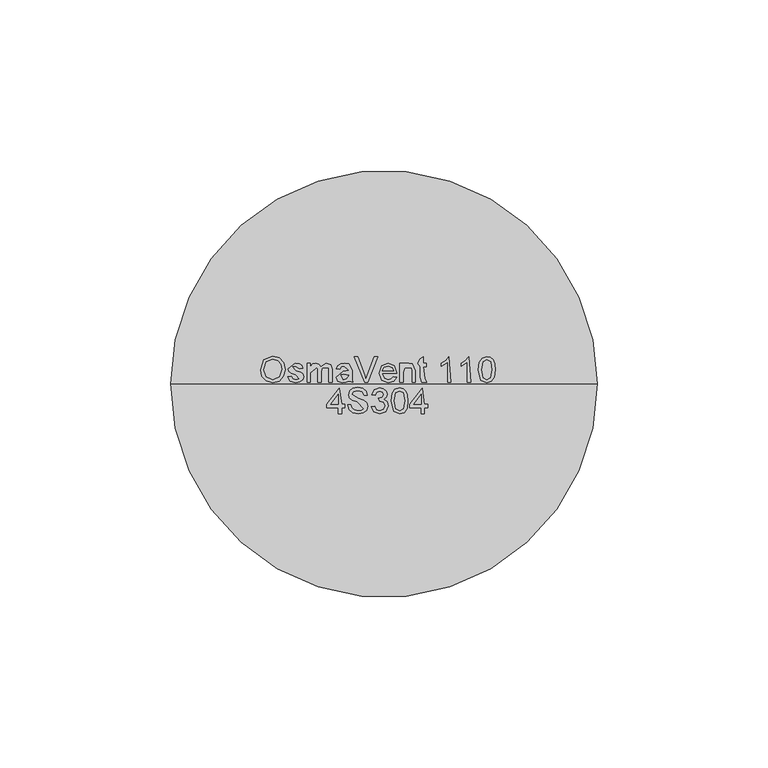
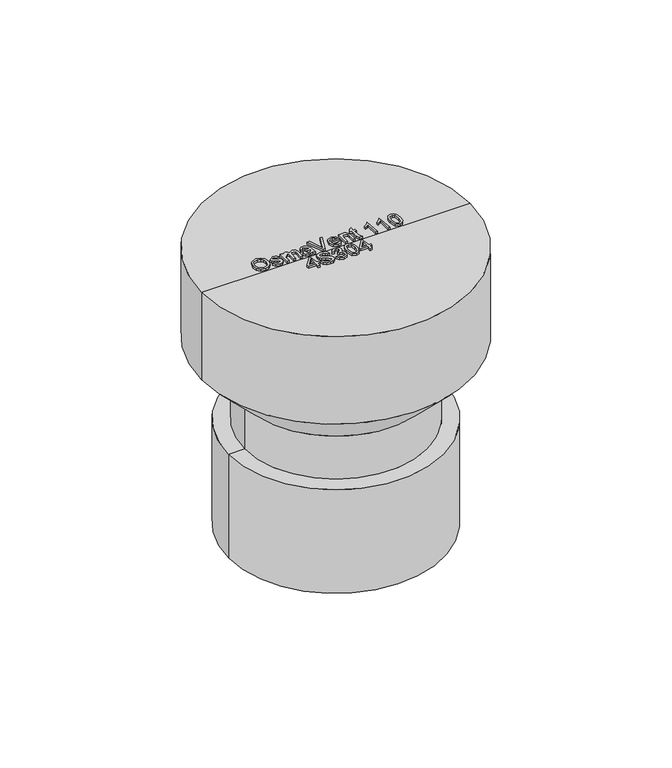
"""IFC4 building model written with IfcOpenShell, lengths in millimetres: pipe fitting geometry, Wavin_PipeAccessory_OsmaAccessoriesAbsAav : Air admitance valve 82/110."""

from ifc_helpers import new_model, si_unit, frame, origin, place, context, project, spatial, polyline, circle_curve, outline, extrude, source, transform, mapped, element, save
from ifc_brep_helpers import plane_surface, cylinder_surface, revolved_surface, advanced_brep


def pipe_fitting_55bd5c23(model_context):
    return source(origin(), model_context, "Body", "SolidModel", [
        extrude(outline(polyline([(-36.1646069, 4.1492234), (-35.1602891, 7.0757246), (-32.5685604, 8.1333854), (-30.6942017, 7.6367447), (-29.42133, 6.251669), (-28.9835504, 4.2356756), (-29.4443226, 2.1920912), (-30.7503037, 0.827249), (-32.5740786, 0.3637176), (-34.4686709, 0.8759933), (-35.734185, 2.2739449), (-36.1646069, 4.1492234)]), holes=[polyline([(-35.222829, 4.1400263), (-34.4695906, 2.0633325), (-32.5795969, 1.3054955), (-30.6730484, 2.0706901), (-29.9253283, 4.2430333), (-30.2453856, 5.7973347), (-31.1807256, 6.8264846), (-32.5630422, 7.1916075), (-34.437401, 6.4880332), (-35.222829, 4.1400263)])]), frame((0.0, 0.0, 84.0), z_axis=(0.0, 0.0, 1.0), x_axis=(1.0, 0.0, 0.0)), (0.0, 0.0, 1.0), 1.0),
        extrude(outline(polyline([(-28.1594947, 2.1295512), (-27.2177168, 2.2472735), (-26.7817766, 1.5482977), (-25.782977, 1.3054955), (-24.822805, 1.5280642), (-25.7940135, 2.7420747), (-27.2121986, 3.2028469), (-27.83116, 3.7408744), (-28.0417725, 4.5005507), (-26.0018668, 6.1321073), (-24.8559144, 5.9472466), (-24.127508, 5.4469271), (-23.8037719, 4.6017182), (-24.7455498, 4.483996), (-25.9282904, 5.1903294), (-26.8296013, 5.0119066), (-25.8252834, 3.9137789), (-24.4429669, 3.4704811), (-23.8010128, 2.9683222), (-23.5683274, 2.1497847), (-23.8414798, 1.2484738), (-24.629667, 0.5945636), (-25.7958529, 0.3637176), (-27.438446, 0.8088549), (-28.1594947, 2.1295512)])), frame((0.0, 0.0, 84.0), z_axis=(0.0, 0.0, 1.0), x_axis=(1.0, 0.0, 0.0)), (0.0, 0.0, 1.0), 1.0),
        extrude(outline(polyline([(-22.5088273, 0.4814399), (-22.5088273, 6.0143851), (-21.5670494, 6.0143851), (-21.5670494, 5.1038771), (-20.919577, 5.8497579), (-19.9980326, 6.1321073), (-19.0544153, 5.8442397), (-18.5357017, 5.0376584), (-16.8728751, 6.1321073), (-15.6413901, 5.6768534), (-15.2100485, 4.2743032), (-15.2100485, 0.4814399), (-16.1518264, 0.4814399), (-16.1518264, 3.8696331), (-16.2391984, 4.6559808), (-18.0197472, 4.8132504), (-18.3885489, 3.604758), (-18.3885489, 0.4814399), (-19.3303268, 0.4814399), (-19.3303268, 3.9744794), (-19.5482969, 4.8868268), (-21.5670494, 3.2718248), (-21.5670494, 0.4814399), (-22.5088273, 0.4814399)])), frame((0.0, 0.0, 84.0), z_axis=(0.0, 0.0, 1.0), x_axis=(1.0, 0.0, 0.0)), (0.0, 0.0, 1.0), 1.0),
        extrude(outline(polyline([(-10.1479922, 0.8346066), (-11.1789815, 0.549498), (-12.1878979, 0.3637176), (-13.5554992, 0.8106943), (-14.0328261, 1.9529679), (-11.9046288, 3.6893709), (-10.2712327, 4.013107), (-11.5661773, 5.1903294), (-12.5189917, 5.0091475), (-12.9733259, 4.3662737), (-13.9151039, 4.483996), (-13.5076745, 5.403701), (-12.6872977, 5.9426481), (-11.4447763, 6.1321073), (-10.3034224, 5.964721), (-9.3239366, 4.0811652), (-9.3239366, 2.909461), (-9.2761119, 1.2733059), (-9.0884921, 0.4814399), (-10.1479922, 0.8346066)]), holes=[polyline([(-10.3429697, 2.5737687), (-11.7850671, 2.7825418), (-12.5953272, 2.6298707), (-11.9874022, 1.3054955), (-11.0345878, 1.5308233), (-10.3429697, 2.5737687)])]), frame((0.0, 0.0, 84.0), z_axis=(0.0, 0.0, 1.0), x_axis=(1.0, 0.0, 0.0)), (0.0, 0.0, 1.0), 1.0),
        extrude(outline(polyline([(-5.6855836, 0.4814399), (-8.6838219, 8.0156631), (-7.6758252, 8.0156631), (-5.6690289, 2.5875643), (-5.2625193, 1.3643567), (-4.861528, 2.5875643), (-2.8492134, 8.0156631), (-1.8412168, 8.0156631), (-4.7125357, 0.4814399), (-5.6855836, 0.4814399)])), frame((0.0, 0.0, 84.0), z_axis=(0.0, 0.0, 1.0), x_axis=(1.0, 0.0, 0.0)), (0.0, 0.0, 1.0), 1.0),
        extrude(outline(polyline([(2.7904175, 2.1295512), (3.7138014, 2.011829), (2.8501984, 0.795979), (1.2416343, 0.3637176), (-0.7136585, 1.1095984), (-1.4365466, 3.2019272), (-0.7063008, 5.363234), (1.1882915, 6.1321073), (3.0286211, 5.3650734), (3.7432319, 3.2074455), (-0.4947687, 2.9536069), (0.0469376, 1.7303992), (1.2600284, 1.3054955), (2.1834123, 1.5023124), (2.7904175, 2.1295512)]), holes=[polyline([(-0.4947687, 3.8953848), (2.801454, 3.8953848), (2.424375, 4.748871), (1.1846126, 5.1903294), (0.0248646, 4.8380824), (-0.4947687, 3.8953848)])]), frame((0.0, 0.0, 84.0), z_axis=(0.0, 0.0, 1.0), x_axis=(1.0, 0.0, 0.0)), (0.0, 0.0, 1.0), 1.0),
        extrude(outline(polyline([(4.6850098, 0.4814399), (4.6850098, 6.0143851), (5.6267877, 6.0143851), (7.3300814, 6.1321073), (8.2194361, 5.9527648), (9.1584549, 3.8788301), (9.1584549, 0.4814399), (8.216677, 0.4814399), (8.216677, 3.7519108), (8.1081518, 4.5851635), (6.05629, 4.820608), (5.6267877, 3.4171382), (5.6267877, 0.4814399), (4.6850098, 0.4814399)])), frame((0.0, 0.0, 84.0), z_axis=(0.0, 0.0, 1.0), x_axis=(1.0, 0.0, 0.0)), (0.0, 0.0, 1.0), 1.0),
        extrude(outline(polyline([(11.9837886, 1.6467061), (12.5723998, 0.4538487), (11.0787989, 0.5200675), (10.5711217, 1.9989531), (10.5711217, 5.0726072), (9.8647883, 6.0143851), (10.5711217, 7.3589938), (11.5128997, 7.9126562), (11.5128997, 6.0143851), (12.4546776, 6.0143851), (12.4546776, 5.0726072), (11.5128997, 5.0726072), (11.9837886, 1.6467061)])), frame((0.0, 0.0, 84.0), z_axis=(0.0, 0.0, 1.0), x_axis=(1.0, 0.0, 0.0)), (0.0, 0.0, 1.0), 1.0),
        extrude(outline(polyline([(19.6357341, 0.4814399), (18.6939562, 0.4814399), (18.6939562, 6.3528365), (17.8018424, 5.7173204), (16.8104004, 5.2418329), (16.8104004, 6.1321073), (18.1908776, 7.0131847), (19.0287288, 8.0156631), (19.6357341, 0.4814399)])), frame((0.0, 0.0, 84.0), z_axis=(0.0, 0.0, 1.0), x_axis=(1.0, 0.0, 0.0)), (0.0, 0.0, 1.0), 1.0),
        extrude(outline(polyline([(25.4041238, 0.4814399), (24.4623459, 0.4814399), (24.4623459, 6.3528365), (23.570232, 5.7173204), (22.5787901, 5.2418329), (22.5787901, 6.1321073), (23.9592673, 7.0131847), (24.7971185, 8.0156631), (25.4041238, 0.4814399)])), frame((0.0, 0.0, 84.0), z_axis=(0.0, 0.0, 1.0), x_axis=(1.0, 0.0, 0.0)), (0.0, 0.0, 1.0), 1.0),
        extrude(outline(polyline([(27.6408463, 4.187851), (27.9176775, 6.3555956), (28.7398938, 7.6054747), (30.1130133, 8.0156631), (31.2129805, 7.772861), (31.9726568, 7.0729655), (32.4141152, 5.9582831), (32.5851803, 4.187851), (32.3111083, 2.0293034), (31.4916511, 0.7766652), (30.1130133, 0.3637176), (28.3913256, 1.0810875), (27.6408463, 4.187851)]), holes=[polyline([(28.5826242, 4.1896904), (29.0240826, 1.8508806), (30.1130133, 1.3054955), (31.201944, 1.85272), (31.6434024, 4.1896904), (31.2166593, 6.5018287), (30.1019769, 7.0738852), (29.0387979, 6.5698869), (28.5826242, 4.1896904)])]), frame((0.0, 0.0, 84.0), z_axis=(0.0, 0.0, 1.0), x_axis=(1.0, 0.0, 0.0)), (0.0, 0.0, 1.0), 1.0),
        extrude(outline(polyline([(-13.3264927, -8.6666715), (-13.3264927, -6.9008379), (-16.7404376, -6.9008379), (-16.7404376, -5.95906), (-13.0910482, -1.2501704), (-12.3847148, -5.95906), (-11.4429368, -5.95906), (-11.4429368, -6.9008379), (-12.3847148, -6.9008379), (-12.3847148, -8.6666715), (-13.3264927, -8.6666715)]), holes=[polyline([(-13.3264927, -5.95906), (-13.3264927, -3.0491134), (-15.5816093, -5.95906), (-13.3264927, -5.95906)])]), frame((0.0, 0.0, 84.0), z_axis=(0.0, 0.0, 1.0), x_axis=(1.0, 0.0, 0.0)), (0.0, 0.0, 1.0), 1.0),
        extrude(outline(polyline([(-10.6188812, -6.0767822), (-9.6771033, -6.0767822), (-9.3736006, -7.0194798), (-8.6323184, -7.6154487), (-7.5029207, -7.8426158), (-6.5188363, -7.670631), (-5.8833202, -7.1979026), (-7.8422918, -5.1911063), (-9.3184183, -4.7266553), (-10.1194814, -4.0258401), (-10.3834367, -3.0895804), (-10.0569414, -2.0236423), (-9.1032074, -1.2713237), (-7.7070952, -1.014726), (-6.2171731, -1.2832798), (-5.2238917, -2.0723867), (-4.8504915, -3.2514485), (-5.7922694, -3.2514485), (-6.3256983, -2.2839188), (-7.670307, -1.9565039), (-9.0185945, -2.28024), (-9.4416588, -3.0619893), (-7.6040882, -4.2410511), (-5.9375828, -4.7137794), (-5.0261551, -5.4771346), (-4.7327693, -6.5421529), (-5.070301, -7.6687916), (-6.0415095, -8.4910078), (-7.4661325, -8.7843937), (-9.1482729, -8.4680152), (-10.2123716, -7.5152008), (-10.6188812, -6.0767822)])), frame((0.0, 0.0, 84.0), z_axis=(0.0, 0.0, 1.0), x_axis=(1.0, 0.0, 0.0)), (0.0, 0.0, 1.0), 1.0),
        extrude(outline(polyline([(-3.6732691, -6.6653934), (-2.7314912, -6.5476712), (-2.2118579, -7.5391131), (-1.2397297, -7.8426158), (-0.0956167, -7.4250697), (0.329287, -6.3913213), (-0.0919379, -5.4173537), (-1.1624745, -5.0319974), (-1.7179763, -4.1932264), (-0.4984475, -3.9338696), (-0.0238797, -3.1024563), (-0.3678494, -2.3657726), (-1.254445, -2.0742261), (-2.1520771, -2.3685317), (-2.613769, -3.2514485), (-3.5555469, -3.1337263), (-2.7848341, -1.65668), (-1.2875544, -1.1324482), (-0.1517187, -1.3908853), (0.6429064, -2.0972187), (0.9178982, -3.047274), (0.656702, -3.9154755), (-0.1158502, -4.5390355), (0.9105406, -5.182829), (1.2710649, -6.407876), (0.5500162, -8.0927756), (-1.2728391, -8.7843937), (-2.9246292, -8.1939431), (-3.6732691, -6.6653934)])), frame((0.0, 0.0, 84.0), z_axis=(0.0, 0.0, 1.0), x_axis=(1.0, 0.0, 0.0)), (0.0, 0.0, 1.0), 1.0),
        extrude(outline(polyline([(2.0951206, -4.9602604), (2.3719518, -2.7925157), (3.194168, -1.5426366), (4.5672876, -1.1324482), (5.6672547, -1.3752503), (6.4269311, -2.0751458), (6.8683895, -3.1898283), (7.0394546, -4.9602604), (6.7653825, -7.118808), (5.9459254, -8.3714462), (4.5672876, -8.7843937), (2.8455998, -8.0670238), (2.0951206, -4.9602604)]), holes=[polyline([(3.0368985, -4.958421), (3.4783569, -7.2972307), (4.5672876, -7.8426158), (5.6562183, -7.2953913), (6.0976767, -4.958421), (5.6709336, -2.6462826), (4.5562511, -2.0742261), (3.4930722, -2.5782244), (3.0368985, -4.958421)])]), frame((0.0, 0.0, 84.0), z_axis=(0.0, 0.0, 1.0), x_axis=(1.0, 0.0, 0.0)), (0.0, 0.0, 1.0), 1.0),
        extrude(outline(polyline([(10.9242885, -8.6666715), (10.9242885, -6.9008379), (7.5103435, -6.9008379), (7.5103435, -5.95906), (11.1597329, -1.2501704), (11.8660664, -5.95906), (12.8078443, -5.95906), (12.8078443, -6.9008379), (11.8660664, -6.9008379), (11.8660664, -8.6666715), (10.9242885, -8.6666715)]), holes=[polyline([(10.9242885, -5.95906), (10.9242885, -3.0491134), (8.6691718, -5.95906), (10.9242885, -5.95906)])]), frame((0.0, 0.0, 84.0), z_axis=(0.0, 0.0, 1.0), x_axis=(1.0, 0.0, 0.0)), (0.0, 0.0, 1.0), 1.0),
        advanced_brep(
        [(50.0, 0.0, 0.0), (-50.0, 0.0, 0.0), (-42.6, 0.0, 0.0), (42.6, 0.0, 0.0), (50.0, 0.0, -51.0), (-50.0, 0.0, -51.0), (42.6, 0.0, -51.0), (-42.6, 0.0, -51.0)],
        [
            (0, 1, circle_curve(frame((0.0, 0.0, 0.0), z_axis=(0.0, 0.0, 1.0), x_axis=(-1.0, 0.0, 0.0)), 50.0)),
            (1, 2),
            (2, 3, circle_curve(frame((0.0, 0.0, 0.0), z_axis=(0.0, 0.0, -1.0), x_axis=(-1.0, 0.0, 0.0)), 42.6)),
            (3, 0),
            (1, 0, circle_curve(frame((0.0, 0.0, 0.0), z_axis=(0.0, 0.0, 1.0), x_axis=(-1.0, 0.0, 0.0)), 50.0)),
            (3, 2, circle_curve(frame((0.0, 0.0, 0.0), z_axis=(0.0, 0.0, -1.0), x_axis=(-1.0, 0.0, 0.0)), 42.6)),
            (4, 5, circle_curve(frame((0.0, 0.0, -51.0), z_axis=(0.0, 0.0, 1.0), x_axis=(-1.0, 0.0, 0.0)), 50.0)),
            (5, 1),
            (0, 4),
            (5, 4, circle_curve(frame((0.0, 0.0, -51.0), z_axis=(0.0, 0.0, 1.0), x_axis=(-1.0, 0.0, 0.0)), 50.0)),
            (6, 7, circle_curve(frame((0.0, 0.0, -51.0), z_axis=(0.0, 0.0, 1.0), x_axis=(-1.0, 0.0, 0.0)), 42.6)),
            (7, 5),
            (4, 6),
            (7, 6, circle_curve(frame((0.0, 0.0, -51.0), z_axis=(0.0, 0.0, 1.0), x_axis=(-1.0, 0.0, 0.0)), 42.6)),
            (2, 7),
            (6, 3),
        ],
        [
            plane_surface(frame((0.0, 0.0, 0.0), z_axis=(0.0, 0.0, 1.0), x_axis=(-1.0, 0.0, 0.0))),
            cylinder_surface(frame((0.0, 0.0, 2214.3150031), z_axis=(0.0, 0.0, -1.0), x_axis=(-1.0, 0.0, 0.0)), 50.0),
            plane_surface(frame((0.0, 0.0, -51.0), z_axis=(0.0, 0.0, -1.0), x_axis=(-1.0, 0.0, 0.0))),
            revolved_surface(polyline([(-42.6, 0.0, -51.0), (-42.6, 0.0, 0.0)]), (0.0, 0.0, 2214.3150031), (0.0, 0.0, -1.0)),
        ],
        [
            (0, [[1, 2, 3, 4]]),
            (0, [[5, -4, 6, -2]]),
            (1, [[7, 8, -1, 9]]),
            (1, [[10, -9, -5, -8]]),
            (2, [[11, 12, -7, 13]]),
            (2, [[14, -13, -10, -12]]),
            (3, [[-3, 15, -11, 16]]),
            (3, [[-6, -16, -14, -15]]),
        ],
    ),
        advanced_brep(
        [(0.0, 0.0, -51.0), (-42.6, 0.0, -51.0), (42.6, 0.0, -51.0), (62.5, 0.0, 84.0), (-62.5, 0.0, 84.0), (0.0, 0.0, 84.0), (62.5, 0.0, 41.0), (-62.5, 0.0, 41.0), (42.6, 0.0, 21.1), (-42.6, 0.0, 21.1), (42.6, 0.0, 0.0), (-42.6, 0.0, 0.0)],
        [
            (0, 1),
            (1, 2, circle_curve(frame((0.0, 0.0, -51.0), z_axis=(0.0, 0.0, -1.0), x_axis=(-1.0, 0.0, 0.0)), 42.6)),
            (2, 0),
            (2, 1, circle_curve(frame((0.0, 0.0, -51.0), z_axis=(0.0, 0.0, -1.0), x_axis=(-1.0, 0.0, 0.0)), 42.6)),
            (3, 4, circle_curve(frame((0.0, 0.0, 84.0), z_axis=(0.0, 0.0, 1.0), x_axis=(-1.0, 0.0, 0.0)), 62.5)),
            (4, 5),
            (5, 3),
            (4, 3, circle_curve(frame((0.0, 0.0, 84.0), z_axis=(0.0, 0.0, 1.0), x_axis=(-1.0, 0.0, 0.0)), 62.5)),
            (6, 7, circle_curve(frame((0.0, 0.0, 41.0), z_axis=(0.0, 0.0, 1.0), x_axis=(-1.0, 0.0, 0.0)), 62.5)),
            (7, 4),
            (3, 6),
            (7, 6, circle_curve(frame((0.0, 0.0, 41.0), z_axis=(0.0, 0.0, 1.0), x_axis=(-1.0, 0.0, 0.0)), 62.5)),
            (8, 9, circle_curve(frame((0.0, 0.0, 21.1), z_axis=(0.0, 0.0, 1.0), x_axis=(-1.0, 0.0, 0.0)), 42.6)),
            (9, 7),
            (6, 8),
            (9, 8, circle_curve(frame((0.0, 0.0, 21.1), z_axis=(0.0, 0.0, 1.0), x_axis=(-1.0, 0.0, 0.0)), 42.6)),
            (10, 11, circle_curve(frame((0.0, 0.0, 0.0), z_axis=(0.0, 0.0, 1.0), x_axis=(-1.0, 0.0, 0.0)), 42.6)),
            (11, 9),
            (8, 10),
            (11, 10, circle_curve(frame((0.0, 0.0, 0.0), z_axis=(0.0, 0.0, 1.0), x_axis=(-1.0, 0.0, 0.0)), 42.6)),
            (1, 11),
            (10, 2),
        ],
        [
            plane_surface(frame((0.0, 0.0, -51.0), z_axis=(0.0, 0.0, -1.0), x_axis=(-1.0, 0.0, 0.0))),
            plane_surface(frame((0.0, 0.0, 84.0), z_axis=(0.0, 0.0, 1.0), x_axis=(-1.0, 0.0, 0.0))),
            cylinder_surface(frame((0.0, 0.0, 2214.3150031), z_axis=(0.0, 0.0, -1.0), x_axis=(-1.0, 0.0, 0.0)), 62.5),
            revolved_surface(polyline([(-62.5, 0.0, 41.0), (-42.6, 0.0, 21.1)]), (0.0, 0.0, 2214.3150031), (0.0, 0.0, -1.0)),
            cylinder_surface(frame((0.0, 0.0, 2214.3150031), z_axis=(0.0, 0.0, -1.0), x_axis=(-1.0, 0.0, 0.0)), 42.6),
        ],
        [
            (0, [[1, 2, 3]]),
            (0, [[-3, 4, -1]]),
            (1, [[5, 6, 7]]),
            (1, [[8, -7, -6]]),
            (2, [[9, 10, -5, 11]]),
            (2, [[12, -11, -8, -10]]),
            (3, [[13, 14, -9, 15]]),
            (3, [[16, -15, -12, -14]]),
            (4, [[17, 18, -13, 19]]),
            (4, [[20, -19, -16, -18]]),
            (4, [[-2, 21, -17, 22]]),
            (4, [[-4, -22, -20, -21]]),
        ],
    ),
    ])


if __name__ == "__main__":
    model = new_model("IFC4")
    model_context = context("Model", 3, world=origin())
    ifc_project = project(units=[si_unit("LENGTHUNIT", "METRE", prefix="MILLI")], contexts=[model_context])
    site = spatial("IfcSite", under=ifc_project)
    building = spatial("IfcBuilding", under=site)
    placement = place(None, origin())
    pipe_fitting_shape = pipe_fitting_55bd5c23(model_context)
    element("IfcPipeFitting", 1, ObjectType="Wavin_PipeAccessory_OsmaAccessoriesAbsAav : Air admitance valve 82/110", at=placement, inside=building, context=model_context, shape_type="MappedRepresentation", body=[
        mapped(pipe_fitting_shape, transform((0.0, 0.0, 0.0), x_axis=(1.0, 0.0, 0.0), y_axis=(0.0, 1.0, 0.0), z_axis=(0.0, 0.0, 1.0))),
    ])
    save(model, "model.ifc")
